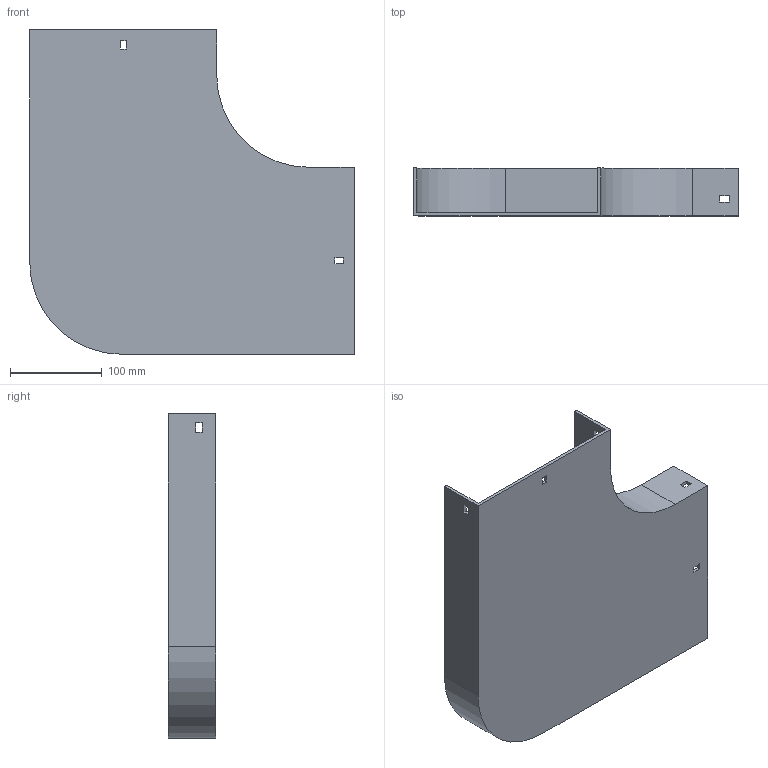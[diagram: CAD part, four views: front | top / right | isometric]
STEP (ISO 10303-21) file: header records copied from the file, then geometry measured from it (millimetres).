
FILE_DESCRIPTION (( 'STEP AP214' ), '1' );
FILE_NAME ('10B1B200.step', '2025-02-21T09:40:34', ( '' ), ( '' ), 'SwSTEP 2.0', 'SolidWorks 2023', '' );
FILE_SCHEMA (( 'AUTOMOTIVE_DESIGN' ));
Length unit declared in the file: millimetre
Products named in the file (1): 10B1B200
Bounding box: 354 x 52 x 354 mm (x, y, z)
Volume: 515003 mm3; surface area: 300315 mm2
Topology: 1 solids, 1 shells, 42 faces, 120 edges, 80 vertices
Faces by surface type: plane 38, cylinder 4
Entity records: 1399 total; most frequent: CARTESIAN_POINT 243, ORIENTED_EDGE 240, DIRECTION 214, EDGE_CURVE 120, VECTOR 112, LINE 112, VERTEX_POINT 80, EDGE_LOOP 54
